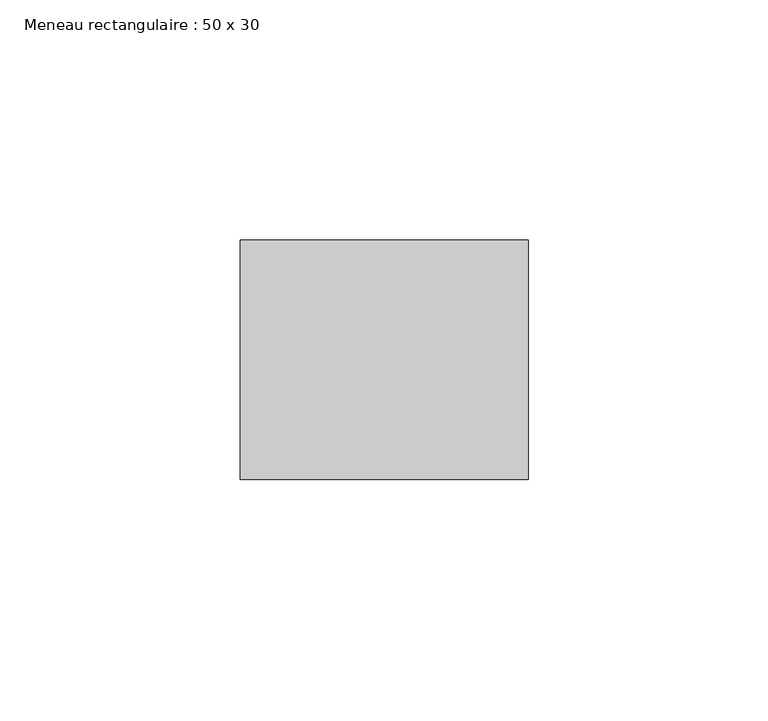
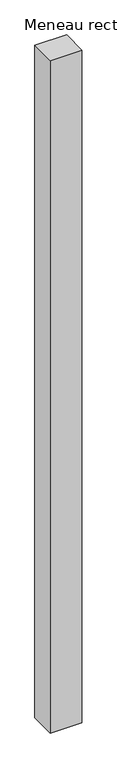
"""IFC4 building model written with IfcOpenShell, lengths in millimetres: member geometry, Meneau rectangulaire : 50 x 30."""

from ifc_helpers import new_model, si_unit, frame, origin, place, context, project, spatial, polyline, outline, extrude, source, transform, mapped, element, save


def meneau_rectangulaire_50_x_30_7df953d7(model_context):
    return source(origin(), model_context, "Body", "SweptSolid", [
        extrude(outline(polyline([(0.0, 0.0), (0.0, -50.0), (-60.0, -50.0), (-60.0, 0.0), (0.0, 0.0)])), frame((0.0, 0.0, -1342.0), z_axis=(0.0, 0.0, 1.0), x_axis=(1.0, 0.0, 0.0)), (0.0, 0.0, 1.0), 1342.0),
    ])


if __name__ == "__main__":
    model = new_model("IFC4")
    model_context = context("Model", 3, world=origin())
    ifc_project = project(units=[si_unit("LENGTHUNIT", "METRE", prefix="MILLI")], contexts=[model_context])
    site = spatial("IfcSite", under=ifc_project)
    building = spatial("IfcBuilding", under=site)
    placement = place(None, origin())
    meneau_rectangulaire_50_x_30_shape = meneau_rectangulaire_50_x_30_7df953d7(model_context)
    element("IfcMember", 1, ObjectType="Meneau rectangulaire : 50 x 30", at=placement, inside=building, context=model_context, shape_type="MappedRepresentation", body=[
        mapped(meneau_rectangulaire_50_x_30_shape, transform((0.0, 0.0, 0.0), x_axis=(1.0, 0.0, 0.0), y_axis=(0.0, 1.0, 0.0), z_axis=(0.0, 0.0, 1.0))),
    ])
    save(model, "model.ifc")
